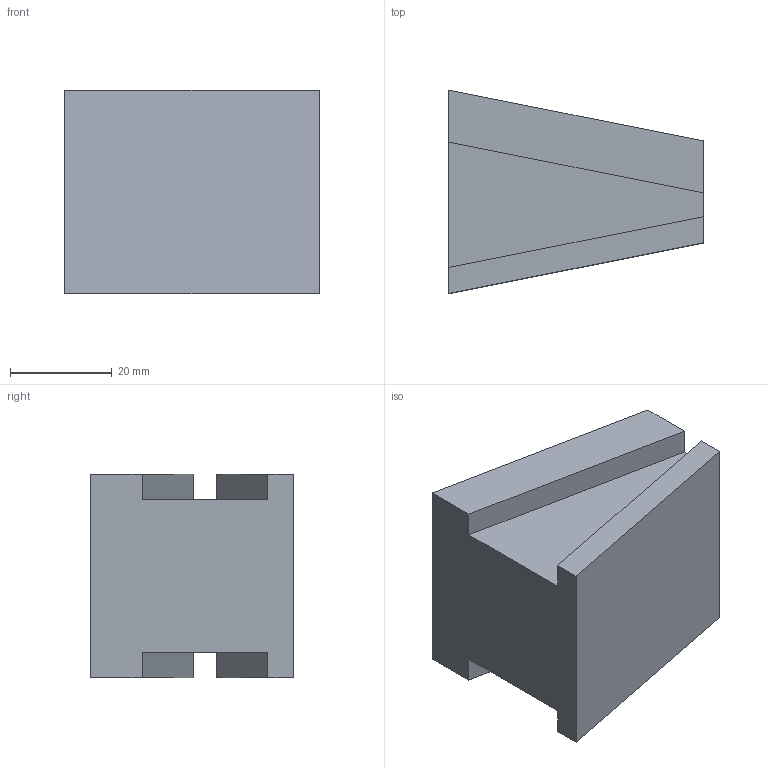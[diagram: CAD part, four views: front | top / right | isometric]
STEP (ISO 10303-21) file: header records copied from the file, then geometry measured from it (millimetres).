
FILE_DESCRIPTION (( 'STEP AP203' ), '1' );
FILE_NAME ('28.1.STEP', '2025-11-23T23:28:48', ( '' ), ( '' ), 'SwSTEP 2.0', 'SolidWorks 2025', '' );
FILE_SCHEMA (( 'CONFIG_CONTROL_DESIGN' ));
Length unit declared in the file: millimetre
Products named in the file (1): 28.1
Bounding box: 50 x 40 x 40 mm (x, y, z)
Volume: 52648.5 mm3; surface area: 10205 mm2
Topology: 1 solids, 1 shells, 14 faces, 36 edges, 24 vertices
Faces by surface type: plane 14
Entity records: 497 total; most frequent: CARTESIAN_POINT 75, ORIENTED_EDGE 72, DIRECTION 66, EDGE_CURVE 36, VECTOR 36, LINE 36, VERTEX_POINT 24, AXIS2_PLACEMENT_3D 15
